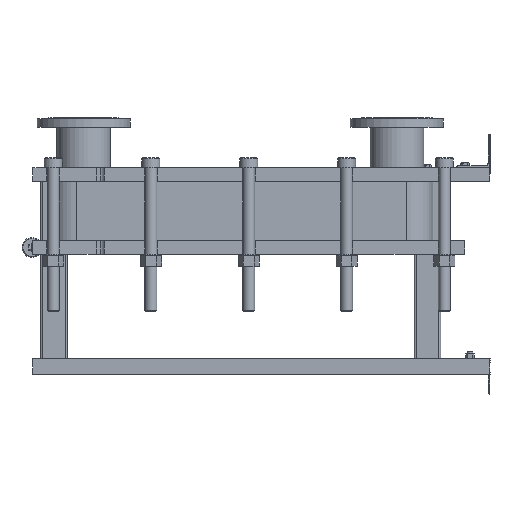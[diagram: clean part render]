
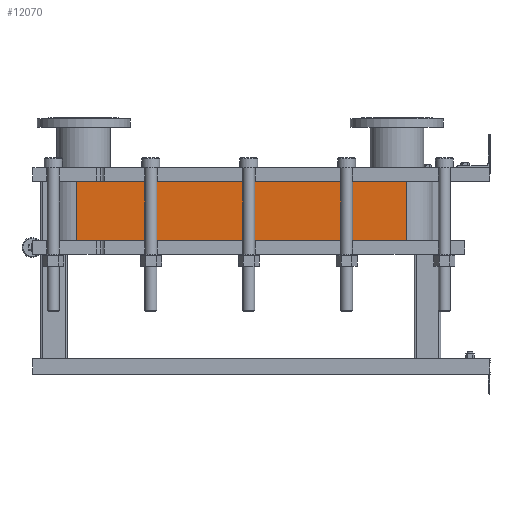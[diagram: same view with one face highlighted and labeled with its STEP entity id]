
A CAD part, left-side view. The second image highlights one B-rep face of the part: STEP entity #12070.
In plain terms, the highlighted planar face has unit normal (-1, 0, 0).
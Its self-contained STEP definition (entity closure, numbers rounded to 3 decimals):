
#1064=LINE('',#21140,#2164);
#1065=LINE('',#21144,#2165);
#1066=LINE('',#21146,#2166);
#1067=LINE('',#21147,#2167);
#2164=VECTOR('',#15790,10.);
#2165=VECTOR('',#15795,10.);
#2166=VECTOR('',#15796,10.);
#2167=VECTOR('',#15797,10.);
#3304=FACE_OUTER_BOUND('',#4091,.T.);
#4091=EDGE_LOOP('',(#9793,#9794,#9795,#9796));
#5677=VERTEX_POINT('',#21137);
#5678=VERTEX_POINT('',#21139);
#5679=VERTEX_POINT('',#21143);
#5680=VERTEX_POINT('',#21145);
#7118=EDGE_CURVE('',#5678,#5677,#1064,.T.);
#7120=EDGE_CURVE('',#5677,#5679,#1065,.T.);
#7121=EDGE_CURVE('',#5680,#5679,#1066,.T.);
#7122=EDGE_CURVE('',#5680,#5678,#1067,.T.);
#9793=ORIENTED_EDGE('',*,*,#7120,.T.);
#9794=ORIENTED_EDGE('',*,*,#7121,.F.);
#9795=ORIENTED_EDGE('',*,*,#7122,.T.);
#9796=ORIENTED_EDGE('',*,*,#7118,.T.);
#11441=PLANE('',#13191);
#12070=ADVANCED_FACE('',(#3304),#11441,.T.);
#13191=AXIS2_PLACEMENT_3D('',#21142,#15793,#15794);
#15790=DIRECTION('',(0.,0.,-1.));
#15793=DIRECTION('center_axis',(-1.,0.,0.));
#15794=DIRECTION('ref_axis',(0.,1.,0.));
#15795=DIRECTION('',(0.,-1.,0.));
#15796=DIRECTION('',(0.,0.,-1.));
#15797=DIRECTION('',(0.,1.,0.));
#21137=CARTESIAN_POINT('',(-248.152,1243.818,-179.4));
#21139=CARTESIAN_POINT('',(-248.152,1243.818,0.));
#21140=CARTESIAN_POINT('',(-248.152,1243.818,0.));
#21142=CARTESIAN_POINT('Origin',(-248.152,251.818,0.));
#21143=CARTESIAN_POINT('',(-248.152,251.818,-179.4));
#21144=CARTESIAN_POINT('',(-248.152,499.818,-179.4));
#21145=CARTESIAN_POINT('',(-248.152,251.818,0.));
#21146=CARTESIAN_POINT('',(-248.152,251.818,0.));
#21147=CARTESIAN_POINT('',(-248.152,251.818,0.));
